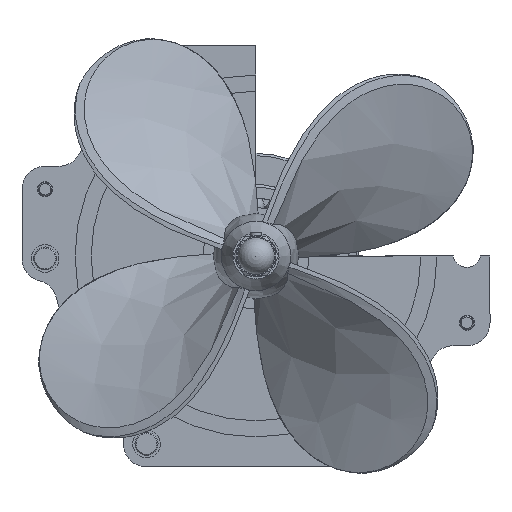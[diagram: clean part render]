
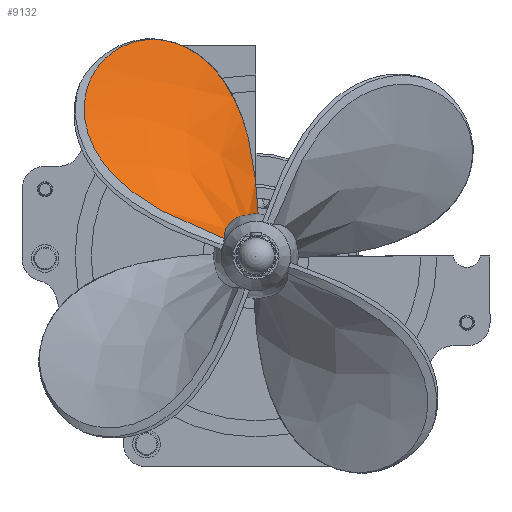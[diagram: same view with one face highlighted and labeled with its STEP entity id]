
A CAD part, left-side view. The second image highlights one B-rep face of the part: STEP entity #9132.
In plain terms, the highlighted free-form (B-spline) face has degree [3, 3] with [4, 7] control points.
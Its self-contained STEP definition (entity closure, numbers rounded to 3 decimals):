
#287=B_SPLINE_SURFACE_WITH_KNOTS('',3,3,((#16074,#16075,#16076,#16077,#16078,
#16079,#16080),(#16081,#16082,#16083,#16084,#16085,#16086,#16087),(#16088,
#16089,#16090,#16091,#16092,#16093,#16094),(#16095,#16096,#16097,#16098,
#16099,#16100,#16101)),.UNSPECIFIED.,.F.,.F.,.F.,(4,4),(4,1,1,1,4),(1.045,
10.305),(0.053,0.382,0.711,
1.039,1.203),.UNSPECIFIED.);
#1987=FACE_OUTER_BOUND('',#2549,.T.);
#2549=EDGE_LOOP('',(#6485,#6486,#6487));
#3787=B_SPLINE_CURVE_WITH_KNOTS('',3,(#13902,#13903,#13904,#13905),
 .UNSPECIFIED.,.F.,.F.,(4,4),(0.238,0.549),
 .UNSPECIFIED.);
#3788=B_SPLINE_CURVE_WITH_KNOTS('',3,(#13914,#13915,#13916,#13917,#13918,
#13919,#13920,#13921),.UNSPECIFIED.,.F.,.F.,(4,2,2,4),(0.549,
1.775,3.594,5.207),.UNSPECIFIED.);
#3848=B_SPLINE_CURVE_WITH_KNOTS('',3,(#15585,#15586,#15587,#15588,#15589,
#15590,#15591,#15592,#15593,#15594,#15595,#15596,#15597,#15598,#15599,#15600,
#15601,#15602,#15603,#15604,#15605,#15606,#15607,#15608,#15609,#15610,#15611,
#15612),.UNSPECIFIED.,.F.,.F.,(4,1,1,1,1,1,1,1,1,1,1,1,1,1,1,1,1,1,1,1,
1,1,1,1,1,4),(-43.502,-40.464,-37.353,-33.205,
-31.131,-29.057,-26.983,-24.91,
-22.836,-20.762,-19.725,-18.688,
-16.614,-14.54,-12.466,-10.911,
-9.355,-7.8,-7.022,-6.244,-4.689,
-4.3,-3.911,-3.133,-1.578,
-0.074),.UNSPECIFIED.);
#3991=VERTEX_POINT('',#13893);
#3992=VERTEX_POINT('',#13901);
#3995=VERTEX_POINT('',#13913);
#4894=EDGE_CURVE('',#3991,#3992,#3787,.T.);
#4898=EDGE_CURVE('',#3992,#3995,#3788,.T.);
#4985=EDGE_CURVE('',#3995,#3991,#3848,.T.);
#6485=ORIENTED_EDGE('',*,*,#4985,.F.);
#6486=ORIENTED_EDGE('',*,*,#4898,.F.);
#6487=ORIENTED_EDGE('',*,*,#4894,.F.);
#9132=ADVANCED_FACE('',(#1987),#287,.T.);
#13893=CARTESIAN_POINT('',(1.174,47.881,15.54));
#13901=CARTESIAN_POINT('',(0.,45.096,16.27));
#13902=CARTESIAN_POINT('Ctrl Pts',(1.174,47.881,15.541));
#13903=CARTESIAN_POINT('Ctrl Pts',(0.799,46.954,15.813));
#13904=CARTESIAN_POINT('Ctrl Pts',(0.407,46.026,16.056));
#13905=CARTESIAN_POINT('Ctrl Pts',(0.,45.096,
16.27));
#13913=CARTESIAN_POINT('',(-13.706,2.115,7.416));
#13914=CARTESIAN_POINT('Ctrl Pts',(0.,45.096,
16.27));
#13915=CARTESIAN_POINT('Ctrl Pts',(-1.6,41.437,17.108));
#13916=CARTESIAN_POINT('Ctrl Pts',(-3.421,37.74,17.478));
#13917=CARTESIAN_POINT('Ctrl Pts',(-7.949,28.202,17.097));
#13918=CARTESIAN_POINT('Ctrl Pts',(-10.41,22.678,15.741));
#13919=CARTESIAN_POINT('Ctrl Pts',(-13.406,11.842,11.812));
#13920=CARTESIAN_POINT('Ctrl Pts',(-14.003,6.985,9.558));
#13921=CARTESIAN_POINT('Ctrl Pts',(-13.706,2.115,7.416));
#15585=CARTESIAN_POINT('Ctrl Pts',(-13.706,2.115,7.416));
#15586=CARTESIAN_POINT('Ctrl Pts',(-18.483,2.199,9.289));
#15587=CARTESIAN_POINT('Ctrl Pts',(-28.104,2.491,13.172));
#15588=CARTESIAN_POINT('Ctrl Pts',(-43.768,3.66,20.732));
#15589=CARTESIAN_POINT('Ctrl Pts',(-56.551,5.549,29.44));
#15590=CARTESIAN_POINT('Ctrl Pts',(-65.736,7.959,39.251));
#15591=CARTESIAN_POINT('Ctrl Pts',(-70.998,10.132,47.564));
#15592=CARTESIAN_POINT('Ctrl Pts',(-74.219,12.683,56.718));
#15593=CARTESIAN_POINT('Ctrl Pts',(-74.905,15.562,66.207));
#15594=CARTESIAN_POINT('Ctrl Pts',(-72.86,18.707,75.377));
#15595=CARTESIAN_POINT('Ctrl Pts',(-68.935,21.474,82.09));
#15596=CARTESIAN_POINT('Ctrl Pts',(-64.682,23.722,86.517));
#15597=CARTESIAN_POINT('Ctrl Pts',(-59.787,25.982,90.239));
#15598=CARTESIAN_POINT('Ctrl Pts',(-52.675,28.792,93.352));
#15599=CARTESIAN_POINT('Ctrl Pts',(-43.384,32.039,94.346));
#15600=CARTESIAN_POINT('Ctrl Pts',(-34.843,34.842,92.687));
#15601=CARTESIAN_POINT('Ctrl Pts',(-27.688,37.159,89.378));
#15602=CARTESIAN_POINT('Ctrl Pts',(-21.646,39.13,85.061));
#15603=CARTESIAN_POINT('Ctrl Pts',(-16.902,40.724,80.142));
#15604=CARTESIAN_POINT('Ctrl Pts',(-13.43,41.935,75.44));
#15605=CARTESIAN_POINT('Ctrl Pts',(-9.944,43.188,69.795));
#15606=CARTESIAN_POINT('Ctrl Pts',(-7.04,44.302,63.465));
#15607=CARTESIAN_POINT('Ctrl Pts',(-4.849,45.207,56.823));
#15608=CARTESIAN_POINT('Ctrl Pts',(-3.472,45.795,51.994));
#15609=CARTESIAN_POINT('Ctrl Pts',(-1.509,46.68,43.293));
#15610=CARTESIAN_POINT('Ctrl Pts',(0.172,47.512,30.632));
#15611=CARTESIAN_POINT('Ctrl Pts',(0.877,47.798,20.521));
#15612=CARTESIAN_POINT('Ctrl Pts',(1.174,47.881,15.54));
#16074=CARTESIAN_POINT('Ctrl Pts',(1.174,47.881,15.539));
#16075=CARTESIAN_POINT('Ctrl Pts',(-0.528,43.522,
15.668));
#16076=CARTESIAN_POINT('Ctrl Pts',(-3.975,34.805,15.361));
#16077=CARTESIAN_POINT('Ctrl Pts',(-8.72,21.729,13.256));
#16078=CARTESIAN_POINT('Ctrl Pts',(-11.896,10.832,10.32));
#16079=CARTESIAN_POINT('Ctrl Pts',(-13.299,4.294,8.167));
#16080=CARTESIAN_POINT('Ctrl Pts',(-13.706,2.115,7.416));
#16081=CARTESIAN_POINT('Ctrl Pts',(-0.469,47.881,46.361));
#16082=CARTESIAN_POINT('Ctrl Pts',(-5.547,43.522,46.309));
#16083=CARTESIAN_POINT('Ctrl Pts',(-15.686,34.805,44.523));
#16084=CARTESIAN_POINT('Ctrl Pts',(-29.218,21.729,37.078));
#16085=CARTESIAN_POINT('Ctrl Pts',(-37.886,10.832,27.566));
#16086=CARTESIAN_POINT('Ctrl Pts',(-41.499,4.294,20.829));
#16087=CARTESIAN_POINT('Ctrl Pts',(-42.512,2.115,18.5));
#16088=CARTESIAN_POINT('Ctrl Pts',(-2.112,47.881,77.182));
#16089=CARTESIAN_POINT('Ctrl Pts',(-10.567,43.522,76.951));
#16090=CARTESIAN_POINT('Ctrl Pts',(-27.398,34.805,73.684));
#16091=CARTESIAN_POINT('Ctrl Pts',(-49.716,21.729,60.899));
#16092=CARTESIAN_POINT('Ctrl Pts',(-63.876,10.832,44.812));
#16093=CARTESIAN_POINT('Ctrl Pts',(-69.698,4.294,33.49));
#16094=CARTESIAN_POINT('Ctrl Pts',(-71.318,2.115,29.584));
#16095=CARTESIAN_POINT('Ctrl Pts',(-3.755,47.881,108.003));
#16096=CARTESIAN_POINT('Ctrl Pts',(-15.586,43.522,107.592));
#16097=CARTESIAN_POINT('Ctrl Pts',(-39.11,34.805,102.846));
#16098=CARTESIAN_POINT('Ctrl Pts',(-70.214,21.729,84.721));
#16099=CARTESIAN_POINT('Ctrl Pts',(-89.866,10.832,62.058));
#16100=CARTESIAN_POINT('Ctrl Pts',(-97.897,4.294,46.152));
#16101=CARTESIAN_POINT('Ctrl Pts',(-100.125,2.115,40.668));
